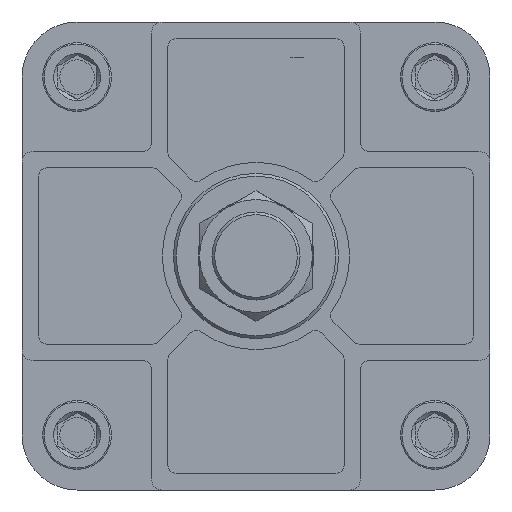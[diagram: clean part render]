
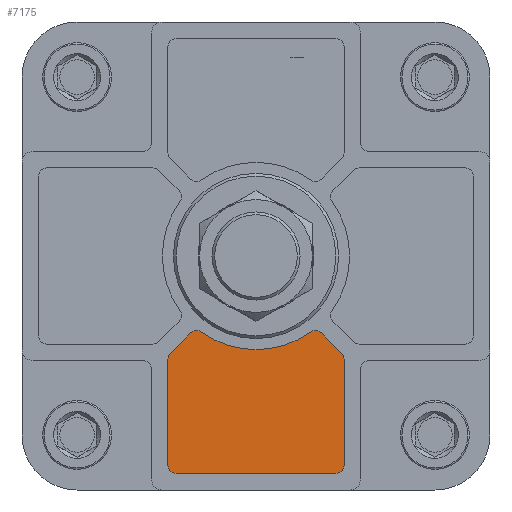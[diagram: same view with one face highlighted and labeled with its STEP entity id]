
A CAD part, front view. The second image highlights one B-rep face of the part: STEP entity #7175.
In plain terms, the highlighted planar face has unit normal (0, -1, 0).
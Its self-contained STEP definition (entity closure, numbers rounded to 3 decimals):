
#263=LINE('',#9885,#689);
#264=LINE('',#9894,#690);
#265=LINE('',#9898,#691);
#266=LINE('',#9902,#692);
#267=LINE('',#9906,#693);
#689=VECTOR('',#8196,1000.);
#690=VECTOR('',#8203,1000.);
#691=VECTOR('',#8206,1000.);
#692=VECTOR('',#8209,1000.);
#693=VECTOR('',#8212,1000.);
#1128=ORIENTED_EDGE('',*,*,#2625,.F.);
#1129=ORIENTED_EDGE('',*,*,#2626,.T.);
#1130=ORIENTED_EDGE('',*,*,#2627,.F.);
#1131=ORIENTED_EDGE('',*,*,#2628,.T.);
#1132=ORIENTED_EDGE('',*,*,#2629,.F.);
#1133=ORIENTED_EDGE('',*,*,#2630,.T.);
#1134=ORIENTED_EDGE('',*,*,#2631,.F.);
#1135=ORIENTED_EDGE('',*,*,#2632,.T.);
#1136=ORIENTED_EDGE('',*,*,#2633,.F.);
#1137=ORIENTED_EDGE('',*,*,#2634,.T.);
#1138=ORIENTED_EDGE('',*,*,#2635,.F.);
#1139=ORIENTED_EDGE('',*,*,#2636,.T.);
#2625=EDGE_CURVE('',#3376,#3377,#263,.T.);
#2626=EDGE_CURVE('',#3376,#3378,#3895,.F.);
#2627=EDGE_CURVE('',#3379,#3378,#3896,.T.);
#2628=EDGE_CURVE('',#3379,#3380,#3897,.F.);
#2629=EDGE_CURVE('',#3381,#3380,#264,.T.);
#2630=EDGE_CURVE('',#3381,#3382,#3898,.F.);
#2631=EDGE_CURVE('',#3383,#3382,#265,.T.);
#2632=EDGE_CURVE('',#3383,#3384,#3899,.F.);
#2633=EDGE_CURVE('',#3385,#3384,#266,.T.);
#2634=EDGE_CURVE('',#3385,#3386,#3900,.F.);
#2635=EDGE_CURVE('',#3387,#3386,#267,.T.);
#2636=EDGE_CURVE('',#3387,#3377,#3901,.F.);
#3376=VERTEX_POINT('',#9886);
#3377=VERTEX_POINT('',#9887);
#3378=VERTEX_POINT('',#9889);
#3379=VERTEX_POINT('',#9891);
#3380=VERTEX_POINT('',#9893);
#3381=VERTEX_POINT('',#9895);
#3382=VERTEX_POINT('',#9897);
#3383=VERTEX_POINT('',#9899);
#3384=VERTEX_POINT('',#9901);
#3385=VERTEX_POINT('',#9903);
#3386=VERTEX_POINT('',#9905);
#3387=VERTEX_POINT('',#9907);
#3895=CIRCLE('',#7539,3.);
#3896=CIRCLE('',#7540,34.);
#3897=CIRCLE('',#7541,3.);
#3898=CIRCLE('',#7542,3.);
#3899=CIRCLE('',#7543,3.);
#3900=CIRCLE('',#7544,3.);
#3901=CIRCLE('',#7545,3.);
#4196=EDGE_LOOP('',(#1128,#1129,#1130,#1131,#1132,#1133,#1134,#1135,#1136,
#1137,#1138,#1139));
#4640=FACE_BOUND('',#4196,.T.);
#5074=PLANE('',#7538);
#7175=ADVANCED_FACE('',(#4640),#5074,.F.);
#7538=AXIS2_PLACEMENT_3D('',#9884,#8194,#8195);
#7539=AXIS2_PLACEMENT_3D('',#9888,#8197,#8198);
#7540=AXIS2_PLACEMENT_3D('',#9890,#8199,#8200);
#7541=AXIS2_PLACEMENT_3D('',#9892,#8201,#8202);
#7542=AXIS2_PLACEMENT_3D('',#9896,#8204,#8205);
#7543=AXIS2_PLACEMENT_3D('',#9900,#8207,#8208);
#7544=AXIS2_PLACEMENT_3D('',#9904,#8210,#8211);
#7545=AXIS2_PLACEMENT_3D('',#9908,#8213,#8214);
#8194=DIRECTION('',(0.,1.,0.));
#8195=DIRECTION('',(0.,0.,1.));
#8196=DIRECTION('',(0.707,0.,-0.707));
#8197=DIRECTION('',(0.,1.,0.));
#8198=DIRECTION('',(0.,0.,1.));
#8199=DIRECTION('',(0.,-1.,0.));
#8200=DIRECTION('',(1.,0.,0.));
#8201=DIRECTION('',(0.,1.,0.));
#8202=DIRECTION('',(0.,0.,1.));
#8203=DIRECTION('',(0.707,0.,0.707));
#8204=DIRECTION('',(0.,1.,0.));
#8205=DIRECTION('',(0.,0.,1.));
#8206=DIRECTION('',(0.,0.,1.));
#8207=DIRECTION('',(0.,1.,0.));
#8208=DIRECTION('',(0.,0.,1.));
#8209=DIRECTION('',(-1.,0.,0.));
#8210=DIRECTION('',(0.,1.,0.));
#8211=DIRECTION('',(0.,0.,1.));
#8212=DIRECTION('',(0.,0.,-1.));
#8213=DIRECTION('',(0.,1.,0.));
#8214=DIRECTION('',(0.,0.,1.));
#9884=CARTESIAN_POINT('',(0.,-29.,0.));
#9885=CARTESIAN_POINT('',(21.827,-29.,-26.069));
#9886=CARTESIAN_POINT('',(23.695,-29.,-27.938));
#9887=CARTESIAN_POINT('',(31.121,-29.,-35.364));
#9888=CARTESIAN_POINT('',(21.574,-29.,-30.059));
#9889=CARTESIAN_POINT('',(19.825,-29.,-27.622));
#9890=CARTESIAN_POINT('',(0.,-29.,0.));
#9891=CARTESIAN_POINT('',(-19.825,-29.,-27.622));
#9892=CARTESIAN_POINT('',(-21.574,-29.,-30.059));
#9893=CARTESIAN_POINT('',(-23.695,-29.,-27.938));
#9894=CARTESIAN_POINT('',(-21.827,-29.,-26.069));
#9895=CARTESIAN_POINT('',(-31.121,-29.,-35.364));
#9896=CARTESIAN_POINT('',(-29.,-29.,-37.485));
#9897=CARTESIAN_POINT('',(-32.,-29.,-37.485));
#9898=CARTESIAN_POINT('',(-32.,-29.,-38.));
#9899=CARTESIAN_POINT('',(-32.,-29.,-76.));
#9900=CARTESIAN_POINT('',(-29.,-29.,-76.));
#9901=CARTESIAN_POINT('',(-29.,-29.,-79.));
#9902=CARTESIAN_POINT('',(-32.,-29.,-79.));
#9903=CARTESIAN_POINT('',(29.,-29.,-79.));
#9904=CARTESIAN_POINT('',(29.,-29.,-76.));
#9905=CARTESIAN_POINT('',(32.,-29.,-76.));
#9906=CARTESIAN_POINT('',(32.,-29.,-79.));
#9907=CARTESIAN_POINT('',(32.,-29.,-37.485));
#9908=CARTESIAN_POINT('',(29.,-29.,-37.485));
